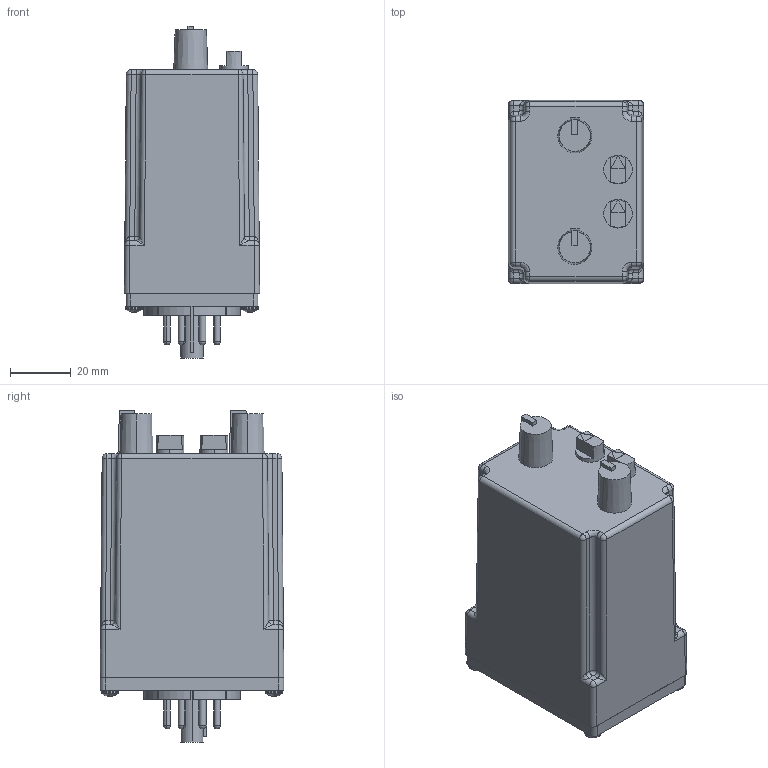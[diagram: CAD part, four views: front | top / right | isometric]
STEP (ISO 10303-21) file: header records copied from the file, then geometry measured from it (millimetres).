
FILE_DESCRIPTION (( 'STEP AP214' ), '1' );
FILE_NAME ('TR-6 Cycle.STEP', '2019-05-20T02:42:07', ( '' ), ( '' ), 'SwSTEP 2.0', 'SolidWorks 2019', '' );
FILE_SCHEMA (( 'AUTOMOTIVE_DESIGN' ));
Length unit declared in the file: millimetre
Products named in the file (1): TR-6 Cycle
Bounding box: 44.45 x 60.33 x 109.09 mm (x, y, z)
Volume: 203472.6 mm3; surface area: 30651.9 mm2
Topology: 18 solids, 18 shells, 726 faces, 1903 edges, 1210 vertices
Faces by surface type: cylinder 280, plane 254, bspline 114, cone 50, sphere 28
Entity records: 33532 total; most frequent: CARTESIAN_POINT 16758, ORIENTED_EDGE 3710, DIRECTION 2775, EDGE_CURVE 1855, VERTEX_POINT 1194, AXIS2_PLACEMENT_3D 971, LINE 833, VECTOR 833
